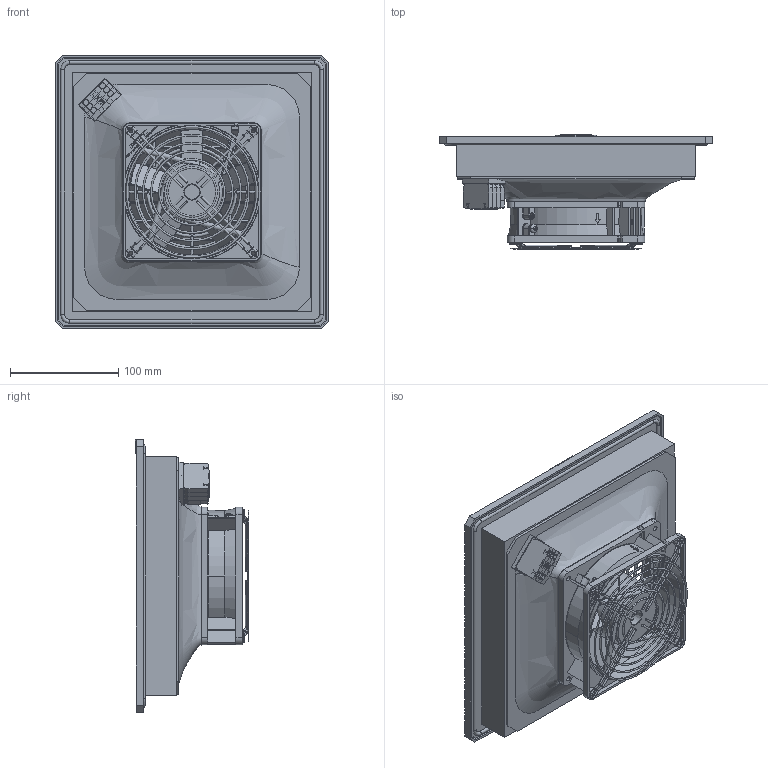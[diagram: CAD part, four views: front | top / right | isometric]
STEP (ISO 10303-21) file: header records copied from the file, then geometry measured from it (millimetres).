
FILE_DESCRIPTION (( 'STEP AP214' ), '1' );
FILE_NAME ('PF42500_AC.STEP', '2007-05-29T14:13:39', ( 'Pfannenberg' ), ( 'Pfannenberg Group' ), 'SwSTEP 2.0', 'SolidWorks 2007', '' );
FILE_SCHEMA (( 'AUTOMOTIVE_DESIGN' ));
Length unit declared in the file: millimetre
Products named in the file (8): housing PF4x_Standard; Klemme_L_N_PE_Standard; PF42500_AC; flow_in_nozzel_PF42500_Standard; 30162-013_Standard; cover PF4x_Standard; safty guard_005059025; fan serie 5200 N_59xx AC
Assembly tree (7 placements, depth 2):
  PF42500_AC
    safty guard_005059025
    30162-013_Standard
    flow_in_nozzel_PF42500_Standard
    cover PF4x_Standard
    Klemme_L_N_PE_Standard
    housing PF4x_Standard
    fan serie 5200 N_59xx AC
Bounding box: 252 x 104.94 x 252 mm (x, y, z)
Volume: 691869.4 mm3; surface area: 534082.8 mm2
Topology: 20 solids, 20 shells, 3294 faces, 9239 edges, 5932 vertices
Faces by surface type: plane 2013, cylinder 697, bspline 289, torus 244, cone 51
Entity records: 168788 total; most frequent: CARTESIAN_POINT 73453, ORIENTED_EDGE 18466, DIRECTION 13618, EDGE_CURVE 9233, VERTEX_POINT 5932, VECTOR 5186, LINE 5186, AXIS2_PLACEMENT_3D 4216
